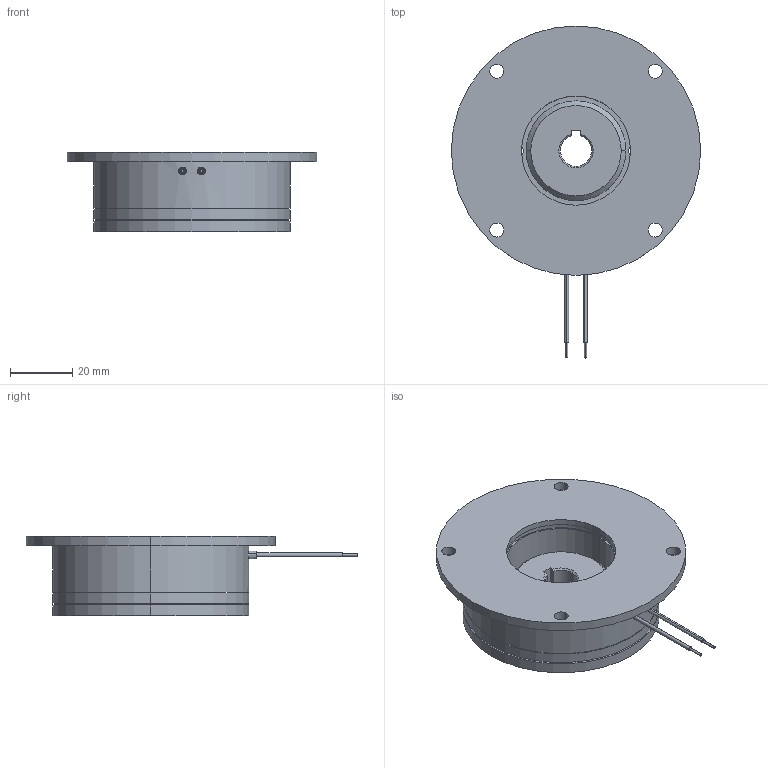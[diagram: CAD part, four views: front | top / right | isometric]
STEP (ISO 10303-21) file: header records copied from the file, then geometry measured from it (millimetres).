
FILE_DESCRIPTION (( 'STEP AP214' ), '1' );
FILE_NAME ('dr_bk_0602-120_mu.STEP', '2021-11-10T10:03:15', ( '' ), ( '' ), 'SwSTEP 2.0', 'SolidWorks 2019', '' );
FILE_SCHEMA (( 'AUTOMOTIVE_DESIGN' ));
Length unit declared in the file: millimetre
Products named in the file (10): 10068788_000; 10068790_000; dr_bk_0602-120_mu; 10068786_000; 10068789_000_Einbaul„nge 2,7mm; 10068789_000_Nietl„nge 2,25mm; 10068785_000; 10068691_000; 10068787_000; 10068791_000
Assembly tree (18 placements, depth 4):
  dr_bk_0602-120_mu
    10068691_000
    10068790_000
      10068791_000
      10068787_000
        10068786_000
        10068785_000
        10068789_000_Nietl„nge 2,25mm  x3
        10068788_000  x3
      10068789_000_Einbaul„nge 2,7mm  x3
      10068788_000  x3
Bounding box: 80 x 106.5 x 25.5 mm (x, y, z)
Volume: 69599.4 mm3; surface area: 32429.9 mm2
Topology: 18 solids, 18 shells, 302 faces, 668 edges, 406 vertices
Faces by surface type: cylinder 153, cone 76, plane 41, torus 20, sphere 12
Entity records: 7065 total; most frequent: DIRECTION 1144, CARTESIAN_POINT 1091, ORIENTED_EDGE 888, AXIS2_PLACEMENT_3D 493, EDGE_CURVE 444, VERTEX_POINT 278, CIRCLE 274, EDGE_LOOP 266
